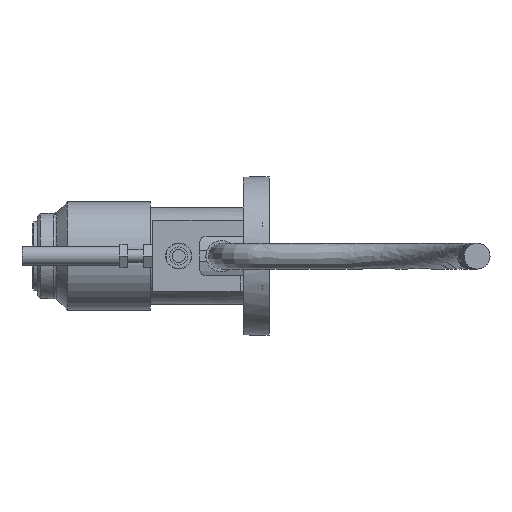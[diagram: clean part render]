
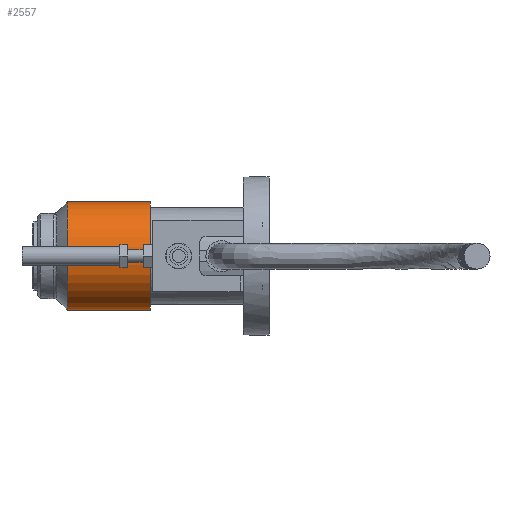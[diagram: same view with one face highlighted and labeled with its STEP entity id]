
A CAD part, left-side view. The second image highlights one B-rep face of the part: STEP entity #2557.
In plain terms, the highlighted cylindrical face has radius 16.75 mm (diameter 33.5 mm), a full revolution.
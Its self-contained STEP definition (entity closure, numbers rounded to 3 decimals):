
#239=CIRCLE('',#2822,16.75);
#240=CIRCLE('',#2823,16.75);
#247=CIRCLE('',#2835,16.75);
#248=CIRCLE('',#2836,16.75);
#294=CYLINDRICAL_SURFACE('',#2834,16.75);
#422=FACE_OUTER_BOUND('',#583,.T.);
#583=EDGE_LOOP('',(#2251,#2252,#2253,#2254,#2255,#2256));
#814=LINE('',#4323,#1026);
#1026=VECTOR('',#3554,16.75);
#1254=VERTEX_POINT('',#4298);
#1255=VERTEX_POINT('',#4300);
#1262=VERTEX_POINT('',#4322);
#1263=VERTEX_POINT('',#4324);
#1594=EDGE_CURVE('',#1254,#1255,#239,.T.);
#1595=EDGE_CURVE('',#1255,#1254,#240,.T.);
#1604=EDGE_CURVE('',#1255,#1262,#814,.T.);
#1605=EDGE_CURVE('',#1262,#1263,#247,.T.);
#1606=EDGE_CURVE('',#1263,#1262,#248,.T.);
#2251=ORIENTED_EDGE('',*,*,#1594,.F.);
#2252=ORIENTED_EDGE('',*,*,#1595,.F.);
#2253=ORIENTED_EDGE('',*,*,#1604,.T.);
#2254=ORIENTED_EDGE('',*,*,#1605,.T.);
#2255=ORIENTED_EDGE('',*,*,#1606,.T.);
#2256=ORIENTED_EDGE('',*,*,#1604,.F.);
#2557=ADVANCED_FACE('',(#422),#294,.T.);
#2822=AXIS2_PLACEMENT_3D('',#4301,#3526,#3527);
#2823=AXIS2_PLACEMENT_3D('',#4302,#3528,#3529);
#2834=AXIS2_PLACEMENT_3D('',#4321,#3552,#3553);
#2835=AXIS2_PLACEMENT_3D('',#4325,#3555,#3556);
#2836=AXIS2_PLACEMENT_3D('',#4326,#3557,#3558);
#3526=DIRECTION('center_axis',(0.,1.,0.));
#3527=DIRECTION('ref_axis',(-1.,0.,0.));
#3528=DIRECTION('center_axis',(0.,1.,0.));
#3529=DIRECTION('ref_axis',(-1.,0.,0.));
#3552=DIRECTION('center_axis',(0.,1.,0.));
#3553=DIRECTION('ref_axis',(1.,0.,0.));
#3554=DIRECTION('',(0.,-1.,0.));
#3555=DIRECTION('center_axis',(0.,1.,0.));
#3556=DIRECTION('ref_axis',(1.,0.,0.));
#3557=DIRECTION('center_axis',(0.,1.,0.));
#3558=DIRECTION('ref_axis',(1.,0.,0.));
#4298=CARTESIAN_POINT('',(16.75,62.5,0.));
#4300=CARTESIAN_POINT('',(-16.75,62.5,0.));
#4301=CARTESIAN_POINT('Origin',(0.,62.5,0.));
#4302=CARTESIAN_POINT('Origin',(0.,62.5,0.));
#4321=CARTESIAN_POINT('Origin',(0.,36.8,0.));
#4322=CARTESIAN_POINT('',(-16.75,36.8,0.));
#4323=CARTESIAN_POINT('',(-16.75,36.8,0.));
#4324=CARTESIAN_POINT('',(16.75,36.8,0.));
#4325=CARTESIAN_POINT('Origin',(0.,36.8,0.));
#4326=CARTESIAN_POINT('Origin',(0.,36.8,0.));
